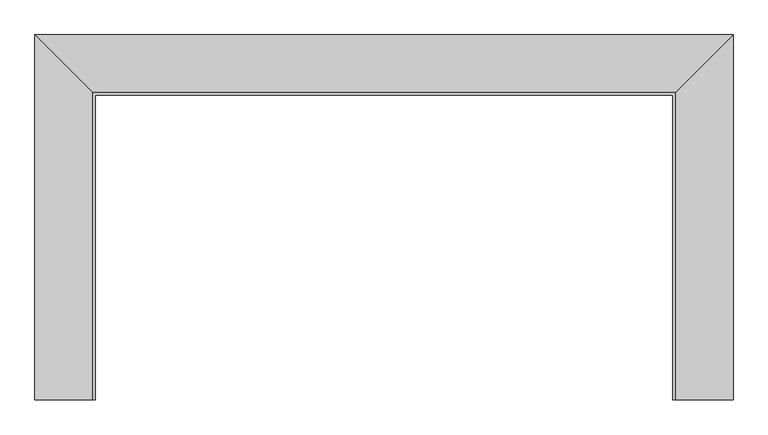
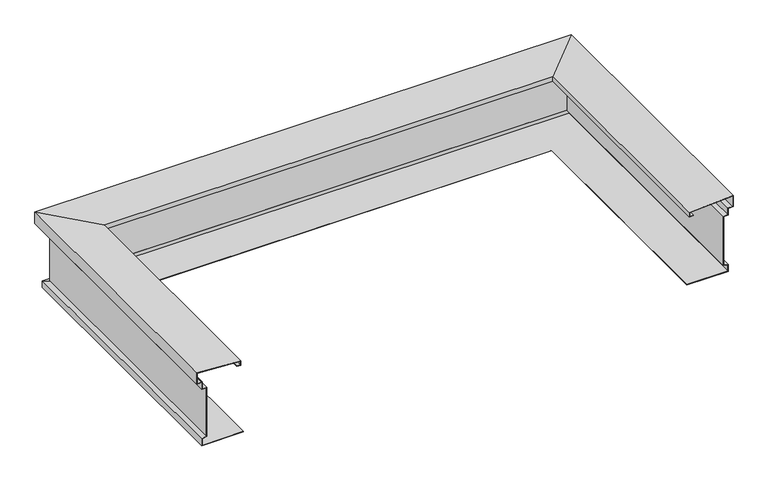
"""IFC4 building model written with IfcOpenShell, lengths in millimetres: proxy geometry, 営_エントランス庇金物1 : エントランス庇金物."""

from ifc_helpers import new_model, si_unit, origin, place, context, project, spatial, faceted_brep, source, transform, mapped, element, save


def generic_models_ea9e84d9(model_context):
    return source(origin(), model_context, "Body", "Brep", [
        faceted_brep([(7090.0, 24420.0, 3900.0), (7140.0, 24420.0, 3900.0), (7140.0, 24420.0, 3960.0), (6580.0, 24420.0, 3990.0), (6580.0, 24420.0, 3840.0), (6640.0, 24420.0, 3840.0), (6640.0, 24420.0, 3750.0), (6700.0, 24420.0, 3750.0), (6700.0, 24420.0, 3096.0769515), (6640.0, 24420.0, 3080.0), (6640.0, 24420.0, 2990.0), (7170.0, 24420.0, 2990.0), (7170.0, 24420.0, 2995.0), (6645.0, 24420.0, 2995.0), (6645.0, 24420.0, 3076.1633651), (6705.0, 24420.0, 3092.2403166), (6705.0, 24420.0, 3755.0), (6645.0, 24420.0, 3755.0), (6645.0, 24420.0, 3845.0), (6585.0, 24420.0, 3845.0), (6585.0, 24420.0, 3984.7249733), (7135.0, 24420.0, 3955.2606875), (7135.0, 24420.0, 3905.0), (7090.0, 24420.0, 3905.0), (7090.0, 27490.0, 3900.0), (12910.0, 27490.0, 3900.0), (12910.0, 24420.0, 3900.0), (12860.0, 24420.0, 3900.0), (12860.0, 27440.0, 3900.0), (7140.0, 27440.0, 3900.0), (7140.0, 27440.0, 3960.0), (6580.0, 28000.0, 3990.0), (6580.0, 28000.0, 3840.0), (13420.0, 28000.0, 3840.0), (13420.0, 24420.0, 3840.0), (13360.0, 24420.0, 3840.0), (13360.0, 27940.0, 3840.0), (6640.0, 27940.0, 3840.0), (6640.0, 27940.0, 3750.0), (13360.0, 27940.0, 3750.0), (13360.0, 24420.0, 3750.0), (13300.0, 24420.0, 3750.0), (13300.0, 27880.0, 3750.0), (6700.0, 27880.0, 3750.0), (6700.0, 27880.0, 3096.0769515), (6640.0, 27940.0, 3080.0), (6640.0, 27940.0, 2990.0), (13360.0, 27940.0, 2990.0), (13360.0, 24420.0, 2990.0), (12830.0, 24420.0, 2990.0), (12830.0, 27410.0, 2990.0), (7170.0, 27410.0, 2990.0), (7170.0, 27410.0, 2995.0), (12830.0, 27410.0, 2995.0), (12830.0, 24420.0, 2995.0), (13355.0, 24420.0, 2995.0), (13355.0, 27935.0, 2995.0), (6645.0, 27935.0, 2995.0), (6645.0, 27935.0, 3076.1633651), (6705.0, 27875.0, 3092.2403166), (6705.0, 27875.0, 3755.0), (13295.0, 27875.0, 3755.0), (13295.0, 24420.0, 3755.0), (13355.0, 24420.0, 3755.0), (13355.0, 27935.0, 3755.0), (6645.0, 27935.0, 3755.0), (6645.0, 27935.0, 3845.0), (13355.0, 27935.0, 3845.0), (13355.0, 24420.0, 3845.0), (13415.0, 24420.0, 3845.0), (13415.0, 27995.0, 3845.0), (6585.0, 27995.0, 3845.0), (6585.0, 27995.0, 3984.7249733), (7135.0, 27445.0, 3955.2606875), (7135.0, 27445.0, 3905.0), (12865.0, 27445.0, 3905.0), (12865.0, 24420.0, 3905.0), (12910.0, 24420.0, 3905.0), (12910.0, 27490.0, 3905.0), (7090.0, 27490.0, 3905.0), (12860.0, 27440.0, 3960.0), (13420.0, 28000.0, 3990.0), (13300.0, 27880.0, 3096.0769515), (13360.0, 27940.0, 3080.0), (13355.0, 27935.0, 3076.1633651), (13295.0, 27875.0, 3092.2403166), (13415.0, 27995.0, 3984.7249733), (12865.0, 27445.0, 3955.2606875), (12865.0, 24420.0, 3955.2606875), (13415.0, 24420.0, 3984.7249733), (13295.0, 24420.0, 3092.2403166), (13355.0, 24420.0, 3076.1633651), (13360.0, 24420.0, 3080.0), (13300.0, 24420.0, 3096.0769515), (13420.0, 24420.0, 3990.0), (12860.0, 24420.0, 3960.0)], [[[0, 1, 2, 3, 4, 5, 6, 7, 8, 9, 10, 11, 12, 13, 14, 15, 16, 17, 18, 19, 20, 21, 22, 23]], [[1, 0, 24, 25, 26, 27, 28, 29]], [[2, 1, 29, 30]], [[3, 2, 30, 31]], [[4, 3, 31, 32]], [[5, 4, 32, 33, 34, 35, 36, 37]], [[6, 5, 37, 38]], [[7, 6, 38, 39, 40, 41, 42, 43]], [[8, 7, 43, 44]], [[9, 8, 44, 45]], [[10, 9, 45, 46]], [[11, 10, 46, 47, 48, 49, 50, 51]], [[12, 11, 51, 52]], [[13, 12, 52, 53, 54, 55, 56, 57]], [[14, 13, 57, 58]], [[15, 14, 58, 59]], [[16, 15, 59, 60]], [[17, 16, 60, 61, 62, 63, 64, 65]], [[18, 17, 65, 66]], [[19, 18, 66, 67, 68, 69, 70, 71]], [[20, 19, 71, 72]], [[21, 20, 72, 73]], [[22, 21, 73, 74]], [[23, 22, 74, 75, 76, 77, 78, 79]], [[0, 23, 79, 24]], [[30, 29, 28, 80]], [[31, 30, 80, 81]], [[32, 31, 81, 33]], [[38, 37, 36, 39]], [[44, 43, 42, 82]], [[45, 44, 82, 83]], [[46, 45, 83, 47]], [[52, 51, 50, 53]], [[58, 57, 56, 84]], [[59, 58, 84, 85]], [[60, 59, 85, 61]], [[66, 65, 64, 67]], [[72, 71, 70, 86]], [[73, 72, 86, 87]], [[74, 73, 87, 75]], [[24, 79, 78, 25]], [[26, 77, 76, 88, 89, 69, 68, 63, 62, 90, 91, 55, 54, 49, 48, 92, 93, 41, 40, 35, 34, 94, 95, 27]], [[80, 28, 27, 95]], [[81, 80, 95, 94]], [[33, 81, 94, 34]], [[39, 36, 35, 40]], [[82, 42, 41, 93]], [[83, 82, 93, 92]], [[47, 83, 92, 48]], [[53, 50, 49, 54]], [[84, 56, 55, 91]], [[85, 84, 91, 90]], [[61, 85, 90, 62]], [[67, 64, 63, 68]], [[86, 70, 69, 89]], [[87, 86, 89, 88]], [[75, 87, 88, 76]], [[25, 78, 77, 26]]]),
    ])


if __name__ == "__main__":
    model = new_model("IFC4")
    model_context = context("Model", 3, world=origin())
    ifc_project = project(units=[si_unit("LENGTHUNIT", "METRE", prefix="MILLI")], contexts=[model_context])
    site = spatial("IfcSite", under=ifc_project)
    building = spatial("IfcBuilding", under=site)
    placement = place(None, origin())
    generic_models_shape = generic_models_ea9e84d9(model_context)
    element("IfcBuildingElementProxy", 1, Name="営_エントランス庇金物1 : エントランス庇金物", ObjectType="営_エントランス庇金物1 : エントランス庇金物", at=placement, inside=building, context=model_context, shape_type="MappedRepresentation", body=[
        mapped(generic_models_shape, transform((0.0, 0.0, 0.0), x_axis=(1.0, 0.0, 0.0), y_axis=(0.0, 1.0, 0.0), z_axis=(0.0, 0.0, 1.0))),
    ])
    save(model, "model.ifc")
